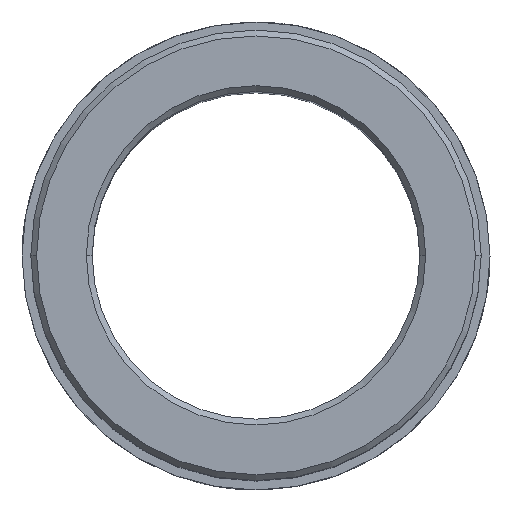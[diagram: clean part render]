
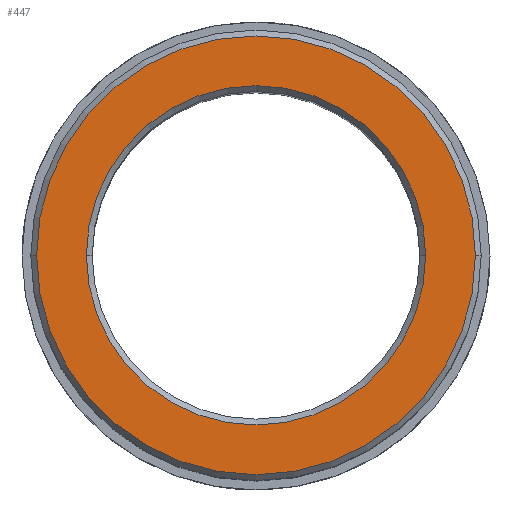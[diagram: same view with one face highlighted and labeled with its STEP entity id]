
A CAD part, top view. The second image highlights one B-rep face of the part: STEP entity #447.
In plain terms, the highlighted planar face has unit normal (0, 0, 1).
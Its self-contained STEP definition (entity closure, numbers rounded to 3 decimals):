
#329=CARTESIAN_POINT('Axis2P3D Location',(0.,0.,71.)) ;
#333=CARTESIAN_POINT('Vertex',(29.,0.,71.)) ;
#335=CARTESIAN_POINT('Vertex',(-29.,0.,71.)) ;
#408=CARTESIAN_POINT('Axis2P3D Location',(0.,0.,71.)) ;
#420=CARTESIAN_POINT('Axis2P3D Location',(29.,0.,71.)) ;
#425=CARTESIAN_POINT('Axis2P3D Location',(0.,0.,71.)) ;
#429=CARTESIAN_POINT('Vertex',(37.5,0.,71.)) ;
#431=CARTESIAN_POINT('Vertex',(-37.5,0.,71.)) ;
#434=CARTESIAN_POINT('Axis2P3D Location',(0.,0.,71.)) ;
#330=DIRECTION('Axis2P3D Direction',(0.,-0.,1.)) ;
#409=DIRECTION('Axis2P3D Direction',(0.,-0.,1.)) ;
#421=DIRECTION('Axis2P3D Direction',(0.,-0.,1.)) ;
#422=DIRECTION('Axis2P3D XDirection',(1.,0.,0.)) ;
#426=DIRECTION('Axis2P3D Direction',(0.,-0.,1.)) ;
#435=DIRECTION('Axis2P3D Direction',(0.,-0.,1.)) ;
#331=AXIS2_PLACEMENT_3D('Circle Axis2P3D',#329,#330,$) ;
#410=AXIS2_PLACEMENT_3D('Circle Axis2P3D',#408,#409,$) ;
#423=AXIS2_PLACEMENT_3D('Plane Axis2P3D',#420,#421,#422) ;
#427=AXIS2_PLACEMENT_3D('Circle Axis2P3D',#425,#426,$) ;
#436=AXIS2_PLACEMENT_3D('Circle Axis2P3D',#434,#435,$) ;
#440=ORIENTED_EDGE('',*,*,#433,.T.) ;
#441=ORIENTED_EDGE('',*,*,#438,.T.) ;
#444=ORIENTED_EDGE('',*,*,#412,.F.) ;
#445=ORIENTED_EDGE('',*,*,#337,.F.) ;
#446=FACE_BOUND('',#443,.T.) ;
#447=ADVANCED_FACE('734-48',(#442,#446),#424,.T.) ;
#332=CIRCLE('generated circle',#331,29.) ;
#411=CIRCLE('generated circle',#410,29.) ;
#428=CIRCLE('generated circle',#427,37.5) ;
#437=CIRCLE('generated circle',#436,37.5) ;
#337=EDGE_CURVE('',#334,#336,#332,.T.) ;
#412=EDGE_CURVE('',#336,#334,#411,.T.) ;
#433=EDGE_CURVE('',#430,#432,#428,.T.) ;
#438=EDGE_CURVE('',#432,#430,#437,.T.) ;
#439=EDGE_LOOP('',(#440,#441)) ;
#443=EDGE_LOOP('',(#444,#445)) ;
#442=FACE_OUTER_BOUND('',#439,.T.) ;
#424=PLANE('Plane',#423) ;
#334=VERTEX_POINT('',#333) ;
#336=VERTEX_POINT('',#335) ;
#430=VERTEX_POINT('',#429) ;
#432=VERTEX_POINT('',#431) ;
